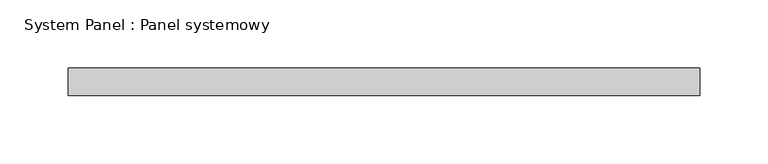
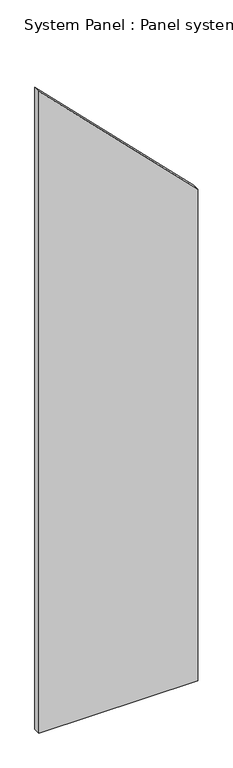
"""IFC4 building model written with IfcOpenShell, lengths in millimetres: plate geometry, System Panel : Panel systemowy."""

from ifc_helpers import new_model, si_unit, frame, origin, place, context, project, spatial, polyline, outline, extrude, source, transform, mapped, element, save


def system_panel_panel_systemowy_e31b65b0(model_context):
    return source(origin(), model_context, "Body", "SweptSolid", [
        extrude(outline(polyline([(0.0, -231.25), (0.0, 231.25), (1513.2359314, 231.25), (1975.7359314, -231.25), (0.0, -231.25)])), frame((0.0, -10.0, 0.0), z_axis=(0.0, 1.0, 0.0), x_axis=(0.0, 0.0, 1.0)), (0.0, 0.0, 1.0), 20.0),
    ])


if __name__ == "__main__":
    model = new_model("IFC4")
    model_context = context("Model", 3, world=origin())
    ifc_project = project(units=[si_unit("LENGTHUNIT", "METRE", prefix="MILLI")], contexts=[model_context])
    site = spatial("IfcSite", under=ifc_project)
    building = spatial("IfcBuilding", under=site)
    placement = place(None, origin())
    system_panel_panel_systemowy_shape = system_panel_panel_systemowy_e31b65b0(model_context)
    element("IfcPlate", 1, ObjectType="System Panel : Panel systemowy", at=placement, inside=building, context=model_context, shape_type="MappedRepresentation", body=[
        mapped(system_panel_panel_systemowy_shape, transform((0.0, 0.0, 0.0), x_axis=(1.0, 0.0, 0.0), y_axis=(0.0, 1.0, 0.0), z_axis=(0.0, 0.0, 1.0))),
    ])
    save(model, "model.ifc")
